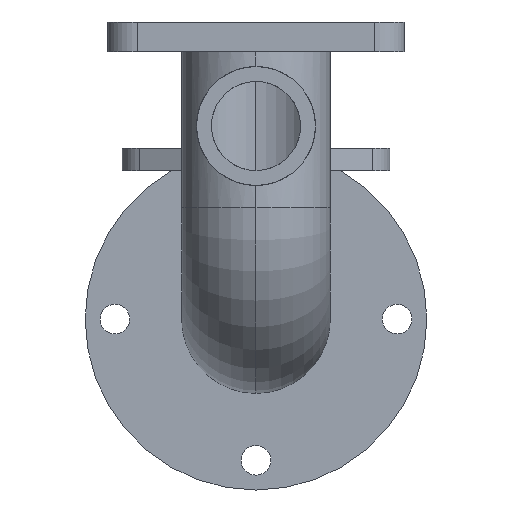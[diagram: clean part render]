
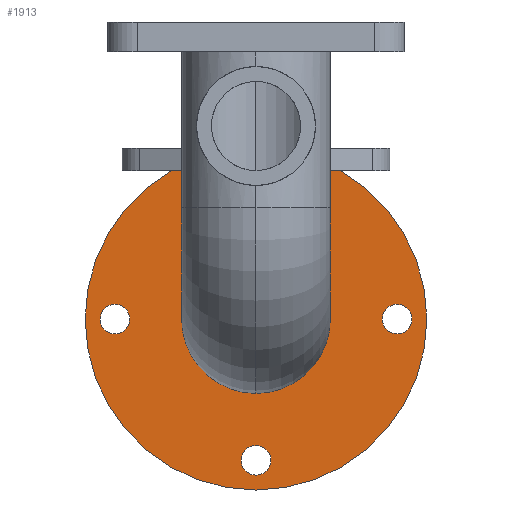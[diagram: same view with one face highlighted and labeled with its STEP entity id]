
A CAD part, left-side view. The second image highlights one B-rep face of the part: STEP entity #1913.
In plain terms, the highlighted planar face has unit normal (-1, 0, 0).
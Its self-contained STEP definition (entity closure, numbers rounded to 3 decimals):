
#810=CARTESIAN_POINT('Vertex',(70.,0.,-37.5)) ;
#813=CARTESIAN_POINT('Axis2P3D Location',(70.,0.,-50.)) ;
#817=CARTESIAN_POINT('Vertex',(70.,0.,-62.5)) ;
#864=CARTESIAN_POINT('Axis2P3D Location',(70.,0.,-50.)) ;
#1249=CARTESIAN_POINT('Vertex',(70.,-2.194,-25.051)) ;
#1265=CARTESIAN_POINT('Vertex',(70.,2.194,-27.449)) ;
#1268=CARTESIAN_POINT('Axis2P3D Location',(70.,0.,-26.25)) ;
#1285=CARTESIAN_POINT('Axis2P3D Location',(70.,0.,-26.25)) ;
#1306=CARTESIAN_POINT('Vertex',(70.,-22.551,-47.806)) ;
#1322=CARTESIAN_POINT('Vertex',(70.,-24.949,-52.194)) ;
#1325=CARTESIAN_POINT('Axis2P3D Location',(70.,-23.75,-50.)) ;
#1342=CARTESIAN_POINT('Axis2P3D Location',(70.,-23.75,-50.)) ;
#1363=CARTESIAN_POINT('Vertex',(70.,-2.194,-72.551)) ;
#1379=CARTESIAN_POINT('Vertex',(70.,2.194,-74.949)) ;
#1382=CARTESIAN_POINT('Axis2P3D Location',(70.,0.,-73.75)) ;
#1399=CARTESIAN_POINT('Axis2P3D Location',(70.,0.,-73.75)) ;
#1420=CARTESIAN_POINT('Vertex',(70.,22.551,-52.194)) ;
#1436=CARTESIAN_POINT('Vertex',(70.,24.949,-47.806)) ;
#1439=CARTESIAN_POINT('Axis2P3D Location',(70.,23.75,-50.)) ;
#1456=CARTESIAN_POINT('Axis2P3D Location',(70.,23.75,-50.)) ;
#1603=CARTESIAN_POINT('Axis2P3D Location',(70.,0.,-50.)) ;
#1607=CARTESIAN_POINT('Vertex',(70.,-28.75,-50.)) ;
#1609=CARTESIAN_POINT('Vertex',(70.,28.75,-50.)) ;
#1629=CARTESIAN_POINT('Axis2P3D Location',(70.,0.,-50.)) ;
#1884=CARTESIAN_POINT('Axis2P3D Location',(70.,0.,0.)) ;
#814=DIRECTION('Axis2P3D Direction',(-1.,0.,0.)) ;
#865=DIRECTION('Axis2P3D Direction',(-1.,0.,0.)) ;
#1269=DIRECTION('Axis2P3D Direction',(-1.,0.,0.)) ;
#1286=DIRECTION('Axis2P3D Direction',(-1.,0.,0.)) ;
#1326=DIRECTION('Axis2P3D Direction',(-1.,0.,0.)) ;
#1343=DIRECTION('Axis2P3D Direction',(-1.,0.,0.)) ;
#1383=DIRECTION('Axis2P3D Direction',(-1.,0.,0.)) ;
#1400=DIRECTION('Axis2P3D Direction',(-1.,0.,0.)) ;
#1440=DIRECTION('Axis2P3D Direction',(-1.,0.,0.)) ;
#1457=DIRECTION('Axis2P3D Direction',(-1.,0.,0.)) ;
#1604=DIRECTION('Axis2P3D Direction',(1.,0.,0.)) ;
#1630=DIRECTION('Axis2P3D Direction',(1.,0.,0.)) ;
#1885=DIRECTION('Axis2P3D Direction',(1.,-0.,0.)) ;
#1886=DIRECTION('Axis2P3D XDirection',(0.,1.,0.)) ;
#815=AXIS2_PLACEMENT_3D('Circle Axis2P3D',#813,#814,$) ;
#866=AXIS2_PLACEMENT_3D('Circle Axis2P3D',#864,#865,$) ;
#1270=AXIS2_PLACEMENT_3D('Circle Axis2P3D',#1268,#1269,$) ;
#1287=AXIS2_PLACEMENT_3D('Circle Axis2P3D',#1285,#1286,$) ;
#1327=AXIS2_PLACEMENT_3D('Circle Axis2P3D',#1325,#1326,$) ;
#1344=AXIS2_PLACEMENT_3D('Circle Axis2P3D',#1342,#1343,$) ;
#1384=AXIS2_PLACEMENT_3D('Circle Axis2P3D',#1382,#1383,$) ;
#1401=AXIS2_PLACEMENT_3D('Circle Axis2P3D',#1399,#1400,$) ;
#1441=AXIS2_PLACEMENT_3D('Circle Axis2P3D',#1439,#1440,$) ;
#1458=AXIS2_PLACEMENT_3D('Circle Axis2P3D',#1456,#1457,$) ;
#1605=AXIS2_PLACEMENT_3D('Circle Axis2P3D',#1603,#1604,$) ;
#1631=AXIS2_PLACEMENT_3D('Circle Axis2P3D',#1629,#1630,$) ;
#1887=AXIS2_PLACEMENT_3D('Plane Axis2P3D',#1884,#1885,#1886) ;
#1890=ORIENTED_EDGE('',*,*,#1611,.F.) ;
#1891=ORIENTED_EDGE('',*,*,#1633,.F.) ;
#1894=ORIENTED_EDGE('',*,*,#1289,.T.) ;
#1895=ORIENTED_EDGE('',*,*,#1272,.T.) ;
#1898=ORIENTED_EDGE('',*,*,#868,.T.) ;
#1899=ORIENTED_EDGE('',*,*,#819,.T.) ;
#1902=ORIENTED_EDGE('',*,*,#1346,.T.) ;
#1903=ORIENTED_EDGE('',*,*,#1329,.T.) ;
#1906=ORIENTED_EDGE('',*,*,#1403,.T.) ;
#1907=ORIENTED_EDGE('',*,*,#1386,.T.) ;
#1910=ORIENTED_EDGE('',*,*,#1460,.T.) ;
#1911=ORIENTED_EDGE('',*,*,#1443,.T.) ;
#1896=FACE_BOUND('',#1893,.T.) ;
#1900=FACE_BOUND('',#1897,.T.) ;
#1904=FACE_BOUND('',#1901,.T.) ;
#1908=FACE_BOUND('',#1905,.T.) ;
#1912=FACE_BOUND('',#1909,.T.) ;
#1913=ADVANCED_FACE('PartBody',(#1892,#1896,#1900,#1904,#1908,#1912),#1888,.F.) ;
#816=CIRCLE('generated circle',#815,12.5) ;
#867=CIRCLE('generated circle',#866,12.5) ;
#1271=CIRCLE('generated circle',#1270,2.5) ;
#1288=CIRCLE('generated circle',#1287,2.5) ;
#1328=CIRCLE('generated circle',#1327,2.5) ;
#1345=CIRCLE('generated circle',#1344,2.5) ;
#1385=CIRCLE('generated circle',#1384,2.5) ;
#1402=CIRCLE('generated circle',#1401,2.5) ;
#1442=CIRCLE('generated circle',#1441,2.5) ;
#1459=CIRCLE('generated circle',#1458,2.5) ;
#1606=CIRCLE('generated circle',#1605,28.75) ;
#1632=CIRCLE('generated circle',#1631,28.75) ;
#819=EDGE_CURVE('',#818,#811,#816,.F.) ;
#868=EDGE_CURVE('',#811,#818,#867,.F.) ;
#1272=EDGE_CURVE('',#1250,#1266,#1271,.F.) ;
#1289=EDGE_CURVE('',#1266,#1250,#1288,.F.) ;
#1329=EDGE_CURVE('',#1307,#1323,#1328,.F.) ;
#1346=EDGE_CURVE('',#1323,#1307,#1345,.F.) ;
#1386=EDGE_CURVE('',#1364,#1380,#1385,.F.) ;
#1403=EDGE_CURVE('',#1380,#1364,#1402,.F.) ;
#1443=EDGE_CURVE('',#1421,#1437,#1442,.F.) ;
#1460=EDGE_CURVE('',#1437,#1421,#1459,.F.) ;
#1611=EDGE_CURVE('',#1608,#1610,#1606,.T.) ;
#1633=EDGE_CURVE('',#1610,#1608,#1632,.T.) ;
#1889=EDGE_LOOP('',(#1890,#1891)) ;
#1893=EDGE_LOOP('',(#1894,#1895)) ;
#1897=EDGE_LOOP('',(#1898,#1899)) ;
#1901=EDGE_LOOP('',(#1902,#1903)) ;
#1905=EDGE_LOOP('',(#1906,#1907)) ;
#1909=EDGE_LOOP('',(#1910,#1911)) ;
#1892=FACE_OUTER_BOUND('',#1889,.T.) ;
#1888=PLANE('Plane',#1887) ;
#811=VERTEX_POINT('',#810) ;
#818=VERTEX_POINT('',#817) ;
#1250=VERTEX_POINT('',#1249) ;
#1266=VERTEX_POINT('',#1265) ;
#1307=VERTEX_POINT('',#1306) ;
#1323=VERTEX_POINT('',#1322) ;
#1364=VERTEX_POINT('',#1363) ;
#1380=VERTEX_POINT('',#1379) ;
#1421=VERTEX_POINT('',#1420) ;
#1437=VERTEX_POINT('',#1436) ;
#1608=VERTEX_POINT('',#1607) ;
#1610=VERTEX_POINT('',#1609) ;
